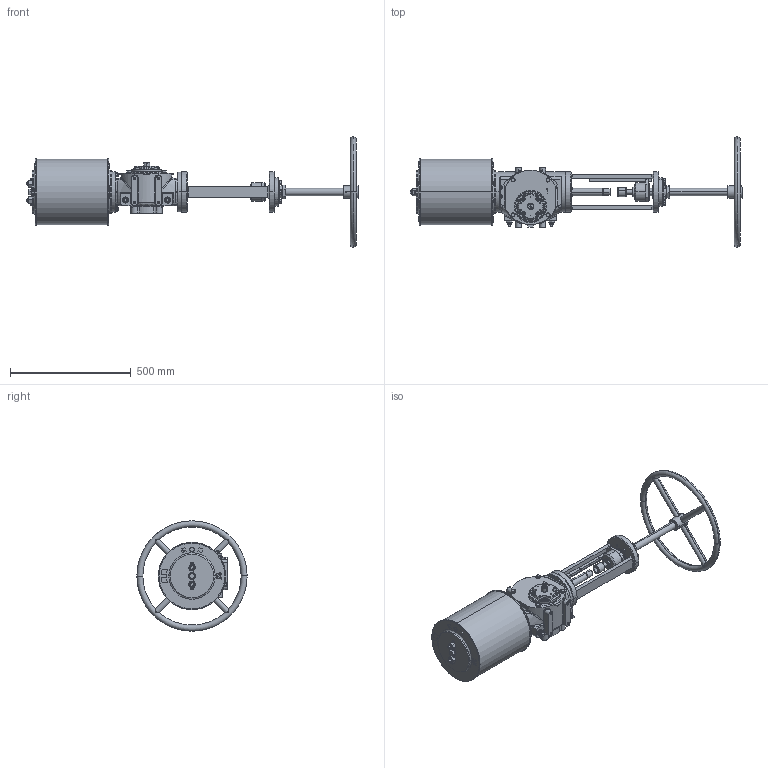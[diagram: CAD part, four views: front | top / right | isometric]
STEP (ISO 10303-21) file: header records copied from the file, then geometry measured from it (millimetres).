
FILE_DESCRIPTION (( 'STEP AP203' ), '1' );
FILE_NAME ('VTS1-250-MSD.STEP', '2023-01-01T07:41:21', ( '' ), ( '' ), 'SwSTEP 2.0', 'SolidWorks 2020', '' );
FILE_SCHEMA (( 'CONFIG_CONTROL_DESIGN' ));
Length unit declared in the file: millimetre
Products named in the file (1): VTS1-250-MSD
Bounding box: 1375.61 x 457 x 457 mm (x, y, z)
Volume: 29092852 mm3; surface area: 1433439.7 mm2
Topology: 3 solids, 26 shells, 2567 faces, 6612 edges, 4147 vertices
Faces by surface type: plane 1039, cylinder 755, cone 456, bspline 223, torus 66, sphere 28
Entity records: 104377 total; most frequent: CARTESIAN_POINT 45478, ORIENTED_EDGE 12988, DIRECTION 11278, EDGE_CURVE 6494, AXIS2_PLACEMENT_3D 4362, VERTEX_POINT 4147, EDGE_LOOP 2841, ADVANCED_FACE 2567
